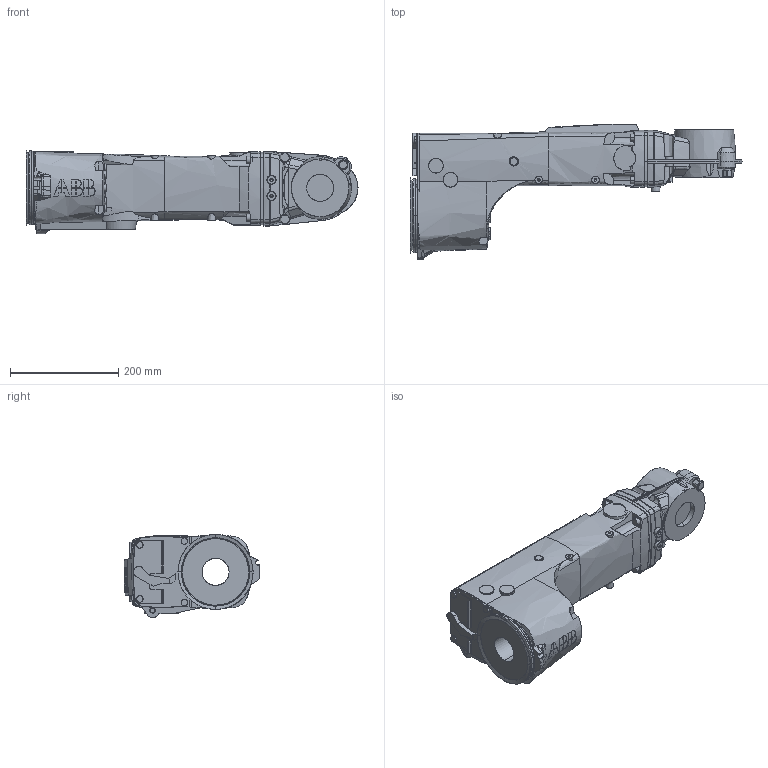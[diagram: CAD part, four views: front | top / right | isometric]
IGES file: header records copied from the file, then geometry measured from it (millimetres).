
Start section: SolidWorks IGES file using analytic representation for surfaces
Global section: file name: C:\Users\CNYUGAO6\Desktop\web model\IRB1660ID_4-155_IRC5_rev0_LINK4.IGS; native system: SolidWorks 2014; preprocessor: SolidWorks 2014; author: CNYUGAO6; date: 160905.132527; units: millimetre
Bounding box: 613.99 x 250.94 x 154.1 mm (x, y, z)
Surface area: 388950.6 mm2 (no closed solid volume)
Topology: 0 solids, 0 shells, 742 faces, 10459 edges, 10447 vertices
Faces by surface type: bspline 447, revolution 295
